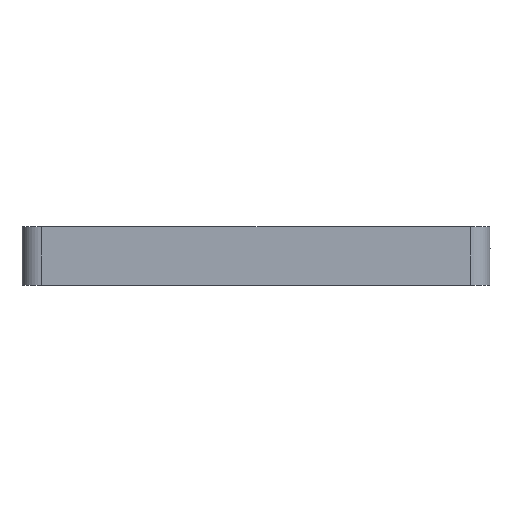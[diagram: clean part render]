
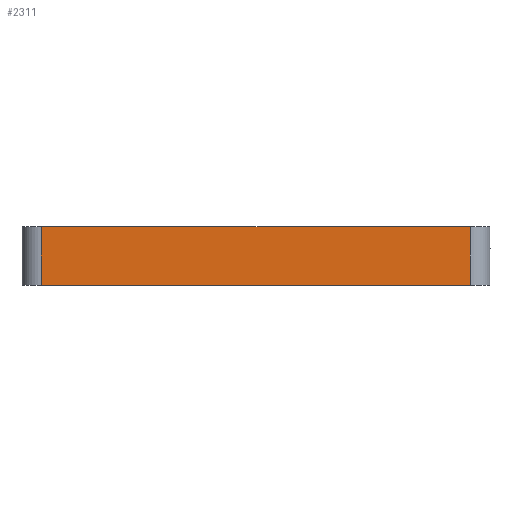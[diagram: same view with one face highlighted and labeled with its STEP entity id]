
A CAD part, left-side view. The second image highlights one B-rep face of the part: STEP entity #2311.
In plain terms, the highlighted planar face has unit normal (-1, 0, 0).
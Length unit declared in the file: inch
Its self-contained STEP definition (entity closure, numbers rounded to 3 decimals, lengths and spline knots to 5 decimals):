
#65 = ORIENTED_EDGE ( 'NONE', *, *, #7277, .T. ) ;
#624 = VERTEX_POINT ( 'NONE', #3673 ) ;
#818 = DIRECTION ( 'NONE',  ( 0., -1., 0. ) ) ;
#850 = EDGE_LOOP ( 'NONE', ( #8672, #5620, #65, #2277 ) ) ;
#1128 = PLANE ( 'NONE',  #6907 ) ;
#1347 = LINE ( 'NONE', #9225, #11117 ) ;
#1427 = CARTESIAN_POINT ( 'NONE',  ( 0., -0.125, 0.1875 ) ) ;
#1979 = CARTESIAN_POINT ( 'NONE',  ( 0., 0., 0.1875 ) ) ;
#2017 = DIRECTION ( 'NONE',  ( 1., 0., 0. ) ) ;
#2277 = ORIENTED_EDGE ( 'NONE', *, *, #11531, .T. ) ;
#2311 = ADVANCED_FACE ( 'NONE', ( #10619 ), #1128, .F. ) ;
#2572 = LINE ( 'NONE', #1427, #7986 ) ;
#2613 = CARTESIAN_POINT ( 'NONE',  ( 0., -2.875, -0.1875 ) ) ;
#2818 = EDGE_CURVE ( 'NONE', #6697, #4903, #2572, .T. ) ;
#3333 = VECTOR ( 'NONE', #8443, 39.37008 ) ;
#3521 = CARTESIAN_POINT ( 'NONE',  ( 0., 0., -0.1875 ) ) ;
#3673 = CARTESIAN_POINT ( 'NONE',  ( 0., -2.875, 0.1875 ) ) ;
#3725 = DIRECTION ( 'NONE',  ( 0., 0., 1. ) ) ;
#3736 = DIRECTION ( 'NONE',  ( 0., 1., 0. ) ) ;
#4903 = VERTEX_POINT ( 'NONE', #8247 ) ;
#5060 = DIRECTION ( 'NONE',  ( 0., 0., -1. ) ) ;
#5465 = VERTEX_POINT ( 'NONE', #2613 ) ;
#5620 = ORIENTED_EDGE ( 'NONE', *, *, #2818, .T. ) ;
#6031 = EDGE_CURVE ( 'NONE', #6697, #624, #8510, .T. ) ;
#6172 = VECTOR ( 'NONE', #818, 39.37008 ) ;
#6697 = VERTEX_POINT ( 'NONE', #7774 ) ;
#6907 = AXIS2_PLACEMENT_3D ( 'NONE', #1979, #2017, #3736 ) ;
#7277 = EDGE_CURVE ( 'NONE', #4903, #5465, #7735, .T. ) ;
#7735 = LINE ( 'NONE', #3521, #6172 ) ;
#7774 = CARTESIAN_POINT ( 'NONE',  ( 0., -0.125, 0.1875 ) ) ;
#7986 = VECTOR ( 'NONE', #5060, 39.37008 ) ;
#8247 = CARTESIAN_POINT ( 'NONE',  ( 0., -0.125, -0.1875 ) ) ;
#8443 = DIRECTION ( 'NONE',  ( 0., -1., 0. ) ) ;
#8510 = LINE ( 'NONE', #10214, #3333 ) ;
#8672 = ORIENTED_EDGE ( 'NONE', *, *, #6031, .F. ) ;
#9225 = CARTESIAN_POINT ( 'NONE',  ( 0., -2.875, 0.1875 ) ) ;
#10214 = CARTESIAN_POINT ( 'NONE',  ( 0., 0., 0.1875 ) ) ;
#10619 = FACE_OUTER_BOUND ( 'NONE', #850, .T. ) ;
#11117 = VECTOR ( 'NONE', #3725, 39.37008 ) ;
#11531 = EDGE_CURVE ( 'NONE', #5465, #624, #1347, .T. ) ;
